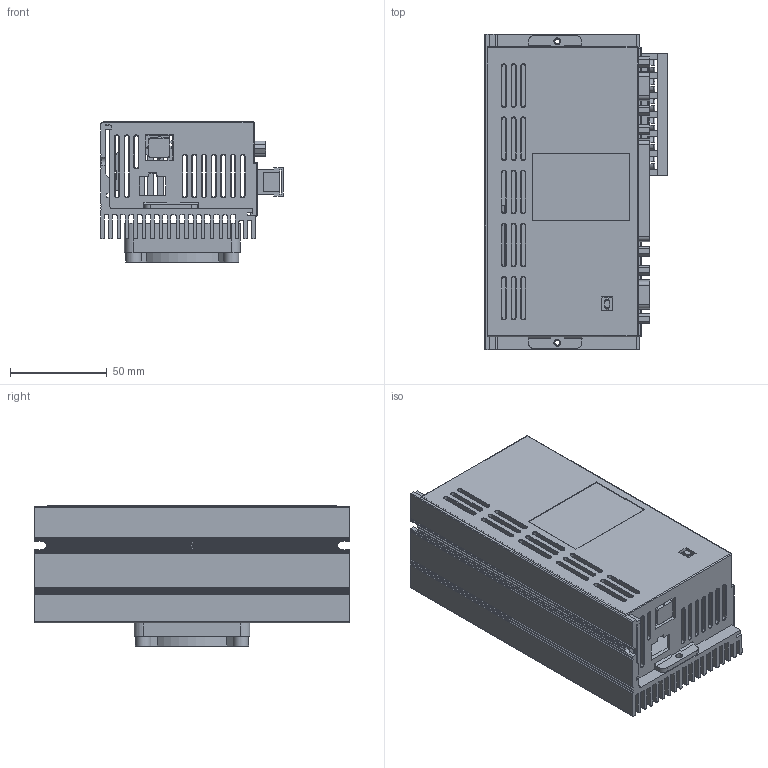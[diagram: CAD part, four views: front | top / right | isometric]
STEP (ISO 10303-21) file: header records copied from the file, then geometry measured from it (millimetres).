
FILE_DESCRIPTION( ( 'Unknown' ), '1' );
FILE_NAME( 'D:/20170123擎翔馬達圖面整理/20170123/CSBL/CSBL驅動器/客戶端_740/740F驅動器_組立件.stp', 'Unknown', ( 'Unknown' ), ( 'Unknown' ), 'PSStep 17.0.49', 'Unknown', ' ' );
FILE_SCHEMA( ( 'AUTOMOTIVE_DESIGN { 1 0 10303 214 1 1 1 1 }' ) );
Length unit declared in the file: millimetre
Products named in the file (5): Assem1; 740F鋁擠型; 塑膠外殼+接頭; 風扇; 風扇蓋
Assembly tree (4 placements, depth 2):
  Assem1
    740F鋁擠型
    塑膠外殼+接頭
    風扇
    風扇蓋
Bounding box: 94.59 x 163 x 72.5 mm (x, y, z)
Volume: 200204.9 mm3; surface area: 191367 mm2
Topology: 4 solids, 4 shells, 2440 faces, 6412 edges, 4043 vertices
Faces by surface type: plane 1231, cylinder 673, bspline 265, cone 147, revolution 112, torus 12
Full cylindrical faces by diameter (mm): 0.5 x5, 1 x61, 2 x6, 2.5 x2, 4.105 x5, 4.5 x4, 5 x4
Entity records: 111776 total; most frequent: CARTESIAN_POINT 36244, ORIENTED_EDGE 12360, DIRECTION 10073, EDGE_CURVE 6180, VERTEX_POINT 4031, LINE 3575, VECTOR 3575, AXIS2_PLACEMENT_3D 3193
